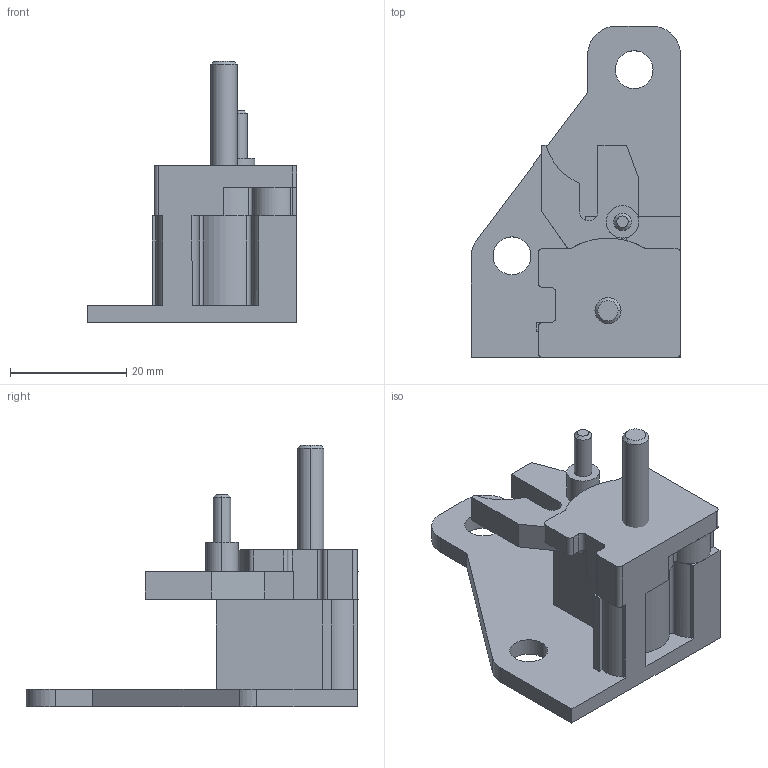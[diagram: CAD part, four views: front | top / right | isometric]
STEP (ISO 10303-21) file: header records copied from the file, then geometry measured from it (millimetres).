
FILE_DESCRIPTION (( 'STEP AP214' ), '1' );
FILE_NAME ('Nova_Pro_Tipmatic_Plus_links.step', '2009-11-24T07:29:31', ( 'Grass' ), ( 'Grass GmbH' ), 'SwSTEP 2.0', 'SolidWorks 2009', '' );
FILE_SCHEMA (( 'AUTOMOTIVE_DESIGN' ));
Length unit declared in the file: millimetre
Products named in the file (1): Nova_Pro_Tipmatic_Plus_links
Bounding box: 36 x 57.09 x 45 mm (x, y, z)
Volume: 15621.3 mm3; surface area: 8825.6 mm2
Topology: 3 solids, 3 shells, 122 faces, 328 edges, 214 vertices
Faces by surface type: plane 64, cylinder 54, cone 4
Entity records: 3908 total; most frequent: DIRECTION 694, CARTESIAN_POINT 665, ORIENTED_EDGE 656, EDGE_CURVE 328, AXIS2_PLACEMENT_3D 243, VERTEX_POINT 214, LINE 208, VECTOR 208
